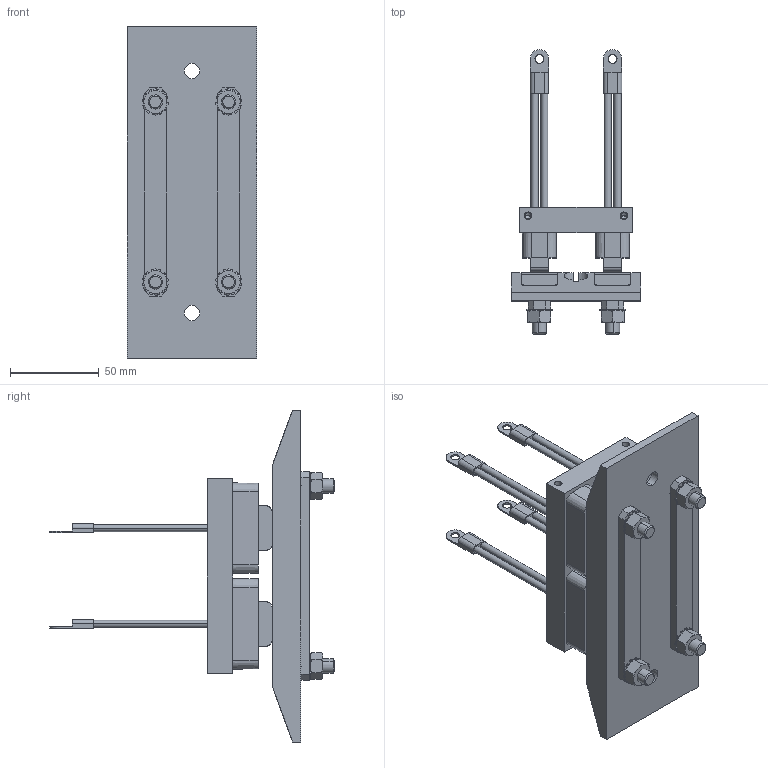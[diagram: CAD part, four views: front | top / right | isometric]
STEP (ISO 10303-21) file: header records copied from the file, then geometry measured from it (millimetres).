
FILE_DESCRIPTION (( 'STEP AP214' ), '1' );
FILE_NAME ('XA-BCL100A2WO.STEP', '2016-09-16T20:33:55', ( 'admin' ), ( 'Microsoft' ), 'SwSTEP 2.0', 'SolidWorks 2014', '' );
FILE_SCHEMA (( 'AUTOMOTIVE_DESIGN' ));
Length unit declared in the file: inch
Products named in the file (16): XA-100289_B18.2.4.1M - Hex nut, Style 1,  M8 x 1.25 --D-C; XA-565023; XA-564384_B18.21.2M-External Tooth Lock Washers_AM8; XA-564383; XA-564382_B18.3.5M - 8 x 1.25 x 35 Socket FCHS  -- 35C; XA-564377; XA-564376; XA-BCL100A2WO; XA-BCC100A2WO; XA-564824_default; XA-564381_DEFAULT; XA-564378; XA-562696_default; XA-562730; XA-564375; XA-BCB100A2WO
Assembly tree (56 placements, depth 3):
  XA-BCL100A2WO
    XA-BCB100A2WO
      XA-564376
      XA-564377  x2
      XA-564382_B18.3.5M - 8 x 1.25 x 35 Socket FCHS  -- 35C  x4
      XA-564383  x2
      XA-564384_B18.21.2M-External Tooth Lock Washers_AM8  x4
      XA-565023  x4
      XA-100289_B18.2.4.1M - Hex nut, Style 1,  M8 x 1.25 --D-C  x4
    XA-BCC100A2WO
      XA-564375
      XA-562730  x4
      XA-562696_default  x4
      XA-564378  x8
      XA-564381_DEFAULT  x8
      XA-564824_default  x8
Bounding box: 73.03 x 160.55 x 187.32 mm (x, y, z)
Volume: 357076.3 mm3; surface area: 152292 mm2
Topology: 54 solids, 62 shells, 1496 faces, 3638 edges, 2268 vertices
Faces by surface type: plane 700, cylinder 428, cone 264, bspline 80, torus 24
Entity records: 22847 total; most frequent: CARTESIAN_POINT 9545, DIRECTION 2659, ORIENTED_EDGE 2382, EDGE_CURVE 1191, AXIS2_PLACEMENT_3D 990, VERTEX_POINT 764, LINE 679, VECTOR 679
